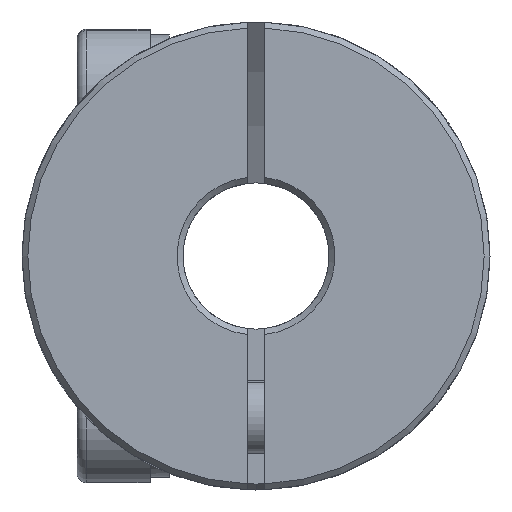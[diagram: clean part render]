
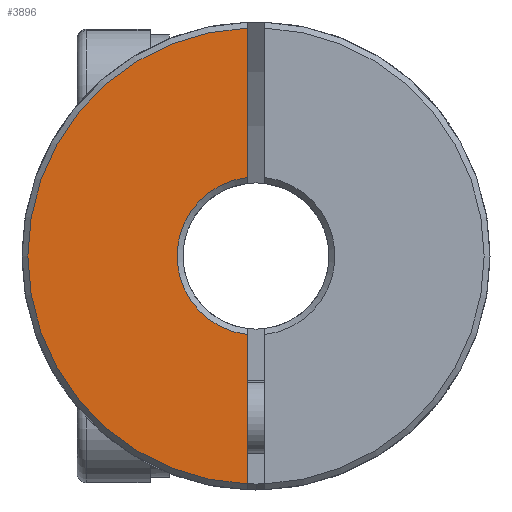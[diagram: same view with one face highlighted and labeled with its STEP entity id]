
A CAD part, front view. The second image highlights one B-rep face of the part: STEP entity #3896.
In plain terms, the highlighted planar face has unit normal (0, -1, 0).
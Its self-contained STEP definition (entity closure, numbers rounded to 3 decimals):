
#11 = CIRCLE ( 'NONE', #5708, 2.7 ) ;
#73 = DIRECTION ( 'NONE',  ( 0., 1., 0. ) ) ;
#458 = VECTOR ( 'NONE', #701, 1000. ) ;
#526 = ORIENTED_EDGE ( 'NONE', *, *, #5618, .F. ) ;
#531 = EDGE_CURVE ( 'NONE', #6153, #5841, #1954, .T. ) ;
#581 = ORIENTED_EDGE ( 'NONE', *, *, #531, .T. ) ;
#701 = DIRECTION ( 'NONE',  ( 0., 0., -1. ) ) ;
#713 = DIRECTION ( 'NONE',  ( 0., 0., 1. ) ) ;
#966 = EDGE_CURVE ( 'NONE', #1895, #5616, #11, .T. ) ;
#1058 = VECTOR ( 'NONE', #1096, 1000. ) ;
#1096 = DIRECTION ( 'NONE',  ( 0., 0., -1. ) ) ;
#1172 = CARTESIAN_POINT ( 'NONE',  ( 0., -15.02, 0. ) ) ;
#1441 = CARTESIAN_POINT ( 'NONE',  ( 0., -15.02, 0. ) ) ;
#1895 = VERTEX_POINT ( 'NONE', #3895 ) ;
#1954 = CIRCLE ( 'NONE', #4559, 7.8 ) ;
#2369 = DIRECTION ( 'NONE',  ( 0., 0., 1. ) ) ;
#2947 = CARTESIAN_POINT ( 'NONE',  ( -0.3, -15.02, 7.794 ) ) ;
#3222 = CARTESIAN_POINT ( 'NONE',  ( -0.3, -15.02, -7.794 ) ) ;
#3271 = FACE_OUTER_BOUND ( 'NONE', #6703, .T. ) ;
#3644 = ORIENTED_EDGE ( 'NONE', *, *, #4523, .F. ) ;
#3808 = AXIS2_PLACEMENT_3D ( 'NONE', #1172, #73, #2369 ) ;
#3811 = DIRECTION ( 'NONE',  ( 0., -1., 0. ) ) ;
#3895 = CARTESIAN_POINT ( 'NONE',  ( -0.3, -15.02, -2.683 ) ) ;
#3896 = ADVANCED_FACE ( 'NONE', ( #3271 ), #5884, .F. ) ;
#4421 = DIRECTION ( 'NONE',  ( 0., 0., 1. ) ) ;
#4523 = EDGE_CURVE ( 'NONE', #6153, #5616, #5754, .T. ) ;
#4559 = AXIS2_PLACEMENT_3D ( 'NONE', #1441, #3811, #4421 ) ;
#4664 = ORIENTED_EDGE ( 'NONE', *, *, #966, .T. ) ;
#4798 = CARTESIAN_POINT ( 'NONE',  ( -0.3, -15.02, 0. ) ) ;
#5616 = VERTEX_POINT ( 'NONE', #6615 ) ;
#5618 = EDGE_CURVE ( 'NONE', #1895, #5841, #5724, .T. ) ;
#5708 = AXIS2_PLACEMENT_3D ( 'NONE', #5997, #5974, #713 ) ;
#5724 = LINE ( 'NONE', #4798, #458 ) ;
#5754 = LINE ( 'NONE', #7027, #1058 ) ;
#5841 = VERTEX_POINT ( 'NONE', #3222 ) ;
#5884 = PLANE ( 'NONE',  #3808 ) ;
#5974 = DIRECTION ( 'NONE',  ( 0., 1., 0. ) ) ;
#5997 = CARTESIAN_POINT ( 'NONE',  ( 0., -15.02, 0. ) ) ;
#6153 = VERTEX_POINT ( 'NONE', #2947 ) ;
#6615 = CARTESIAN_POINT ( 'NONE',  ( -0.3, -15.02, 2.683 ) ) ;
#6703 = EDGE_LOOP ( 'NONE', ( #3644, #581, #526, #4664 ) ) ;
#7027 = CARTESIAN_POINT ( 'NONE',  ( -0.3, -15.02, 0. ) ) ;
